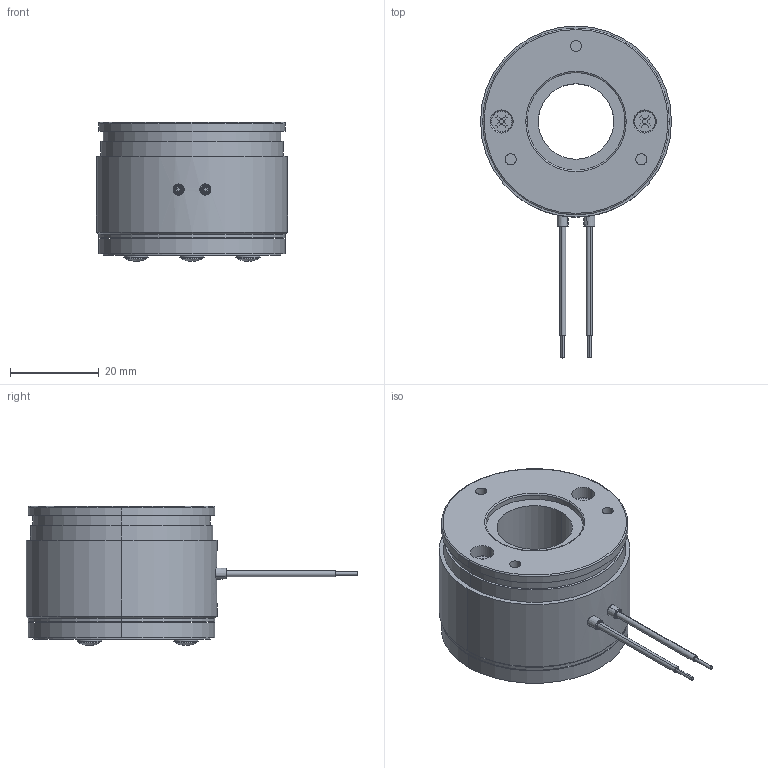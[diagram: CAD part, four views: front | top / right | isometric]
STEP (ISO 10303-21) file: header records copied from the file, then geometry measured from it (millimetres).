
FILE_DESCRIPTION (( 'STEP AP214' ), '1' );
FILE_NAME ('04P1310.STEP', '2026-04-23T06:07:00', ( '' ), ( '' ), 'SwSTEP 2.0', 'SolidWorks 2025', '' );
FILE_SCHEMA (( 'AUTOMOTIVE_DESIGN' ));
Length unit declared in the file: millimetre
Products named in the file (7): 10088624swp000; 10088628swp000; 10088625swp000; 10088626swp000_genietet (2,35mm Klemmlänge); 04P1310; 10088627swa000; 10088629swp000
Assembly tree (10 placements, depth 3):
  04P1310
    10088624swp000
    10088627swa000
      10088628swp000
      10088625swp000
      10088626swp000_genietet (2,35mm Klemmlänge)  x3
      10088629swp000  x3
Bounding box: 43 x 74.7 x 31.3 mm (x, y, z)
Volume: 34139.1 mm3; surface area: 13357.5 mm2
Topology: 11 solids, 11 shells, 252 faces, 568 edges, 352 vertices
Faces by surface type: cylinder 110, plane 58, cone 54, torus 24, sphere 6
Entity records: 6069 total; most frequent: DIRECTION 1110, CARTESIAN_POINT 1090, ORIENTED_EDGE 900, AXIS2_PLACEMENT_3D 456, EDGE_CURVE 450, VERTEX_POINT 284, EDGE_LOOP 248, CIRCLE 244
